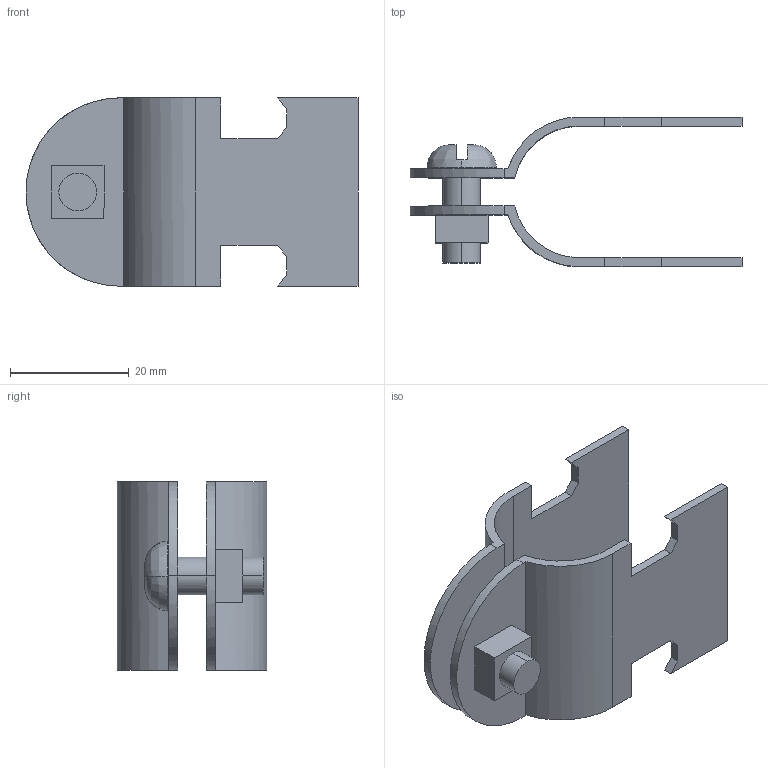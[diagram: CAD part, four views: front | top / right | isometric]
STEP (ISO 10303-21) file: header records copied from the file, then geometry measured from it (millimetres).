
FILE_DESCRIPTION(('TurboCAD Mac Pro'),'Build 980');
FILE_NAME('P2029.stp',' ',(''),(''),'ACIS Interop','IMSI','TurboCAD Mac Pro BY IMSI, INCORPORATED');
FILE_SCHEMA(('automotive_design'));
Length unit declared in the file: inch
Products named in the file (5): 1; 2; 3; 4; 5
Bounding box: 56 x 25.23 x 31.74 mm (x, y, z)
Volume: 6040.9 mm3; surface area: 8222.3 mm2
Topology: 4 solids, 4 shells, 75 faces, 194 edges, 128 vertices
Faces by surface type: plane 51, bspline 24
Entity records: 3647 total; most frequent: CARTESIAN_POINT 1154, ORIENTED_EDGE 388, DIRECTION 262, EDGE_CURVE 194, LINE 142, VECTOR 142, VERTEX_POINT 128, STYLED_ITEM 91
